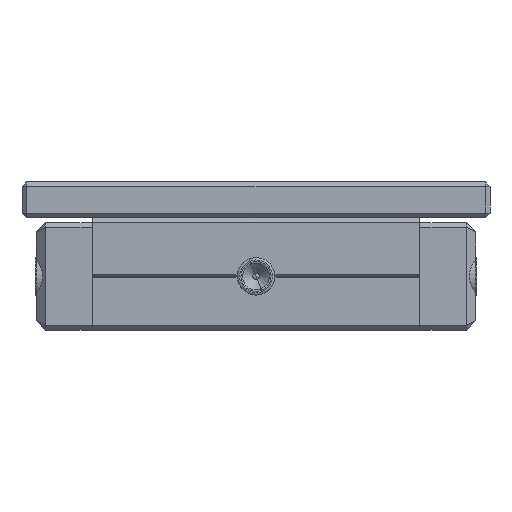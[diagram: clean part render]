
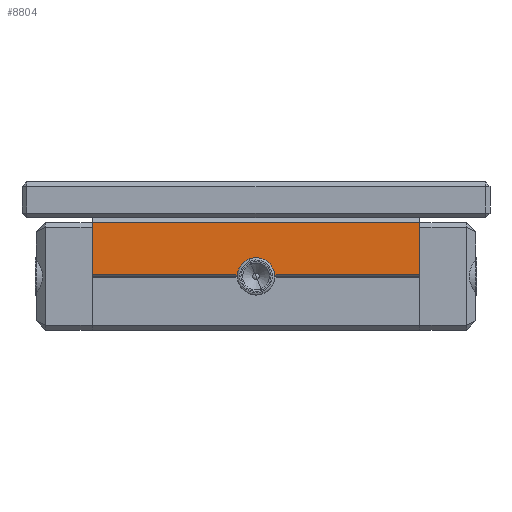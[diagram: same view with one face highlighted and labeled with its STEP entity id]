
A CAD part, front view. The second image highlights one B-rep face of the part: STEP entity #8804.
In plain terms, the highlighted planar face has unit normal (0, -1, 0) as drawn and (-1, 0, 0) by its records, which use the part's own axes.
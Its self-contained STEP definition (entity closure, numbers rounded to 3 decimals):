
#4380 = DIRECTION ( 'NONE',  ( 0., -1., 0. ) ) ;
#4381 = VECTOR ( 'NONE', #4380, 1000. ) ;
#4382 = CARTESIAN_POINT ( 'NONE',  ( -25., 0.3, 35. ) ) ;
#4383 = LINE ( 'NONE', #4382, #4381 ) ;
#4384 = CARTESIAN_POINT ( 'NONE',  ( -25., 11.5, 35. ) ) ;
#4530 = CARTESIAN_POINT ( 'NONE',  ( -25., 0.3, -35. ) ) ;
#4666 = CARTESIAN_POINT ( 'NONE',  ( -25., 11.5, -35. ) ) ;
#4667 = DIRECTION ( 'NONE',  ( 0., -1., 0. ) ) ;
#4668 = VECTOR ( 'NONE', #4667, 1000. ) ;
#4669 = CARTESIAN_POINT ( 'NONE',  ( -25., 0.3, -35. ) ) ;
#4670 = LINE ( 'NONE', #4669, #4668 ) ;
#4950 = DIRECTION ( 'NONE',  ( 0., 0., -1. ) ) ;
#4951 = DIRECTION ( 'NONE',  ( 1., 0., 0. ) ) ;
#4952 = CARTESIAN_POINT ( 'NONE',  ( -25., 0.3, 35. ) ) ;
#4953 = AXIS2_PLACEMENT_3D ( 'NONE', #4952, #4951, #4950 ) ;
#4954 = PLANE ( 'NONE',  #4953 ) ;
#4955 = FACE_OUTER_BOUND ( 'NONE', #8805, .T. ) ;
#4956 = DIRECTION ( 'NONE',  ( 0., 0., -1. ) ) ;
#4957 = VECTOR ( 'NONE', #4956, 1000. ) ;
#4958 = CARTESIAN_POINT ( 'NONE',  ( -25., 11.5, 35. ) ) ;
#4959 = LINE ( 'NONE', #4958, #4957 ) ;
#4996 = DIRECTION ( 'NONE',  ( 0., 0., 1. ) ) ;
#4997 = DIRECTION ( 'NONE',  ( -1., 0., 0. ) ) ;
#4998 = AXIS2_PLACEMENT_3D ( 'NONE', #5005, #4997, #4996 ) ;
#4999 = CIRCLE ( 'NONE', #4998, 3. ) ;
#5000 = CARTESIAN_POINT ( 'NONE',  ( -25., 0.3, -2.985 ) ) ;
#5001 = DIRECTION ( 'NONE',  ( 0., 0., -1. ) ) ;
#5002 = VECTOR ( 'NONE', #5001, 1000. ) ;
#5003 = CARTESIAN_POINT ( 'NONE',  ( -25., 0.3, 35. ) ) ;
#5004 = LINE ( 'NONE', #5003, #5002 ) ;
#5005 = CARTESIAN_POINT ( 'NONE',  ( -25., 0., 0. ) ) ;
#8441 = VERTEX_POINT ( 'NONE', #4384 ) ;
#8443 = EDGE_CURVE ( 'NONE', #8441, #10894, #4383, .T. ) ;
#8540 = VERTEX_POINT ( 'NONE', #4530 ) ;
#8608 = EDGE_CURVE ( 'NONE', #8609, #8540, #4670, .T. ) ;
#8609 = VERTEX_POINT ( 'NONE', #4666 ) ;
#8801 = EDGE_CURVE ( 'NONE', #8441, #8609, #4959, .T. ) ;
#8804 = ADVANCED_FACE ( 'NONE', ( #4955 ), #4954, .F. ) ;
#8805 = EDGE_LOOP ( 'NONE', ( #9502, #8862, #8864, #8865, #8866, #8868 ) ) ;
#8860 = EDGE_CURVE ( 'NONE', #8861, #8540, #5004, .T. ) ;
#8861 = VERTEX_POINT ( 'NONE', #5000 ) ;
#8862 = ORIENTED_EDGE ( 'NONE', *, *, #8863, .F. ) ;
#8863 = EDGE_CURVE ( 'NONE', #10895, #8861, #4999, .T. ) ;
#8864 = ORIENTED_EDGE ( 'NONE', *, *, #10893, .F. ) ;
#8865 = ORIENTED_EDGE ( 'NONE', *, *, #8443, .F. ) ;
#8866 = ORIENTED_EDGE ( 'NONE', *, *, #8801, .T. ) ;
#8868 = ORIENTED_EDGE ( 'NONE', *, *, #8608, .T. ) ;
#9502 = ORIENTED_EDGE ( 'NONE', *, *, #8860, .F. ) ;
#10893 = EDGE_CURVE ( 'NONE', #10894, #10895, #16342, .T. ) ;
#10894 = VERTEX_POINT ( 'NONE', #16338 ) ;
#10895 = VERTEX_POINT ( 'NONE', #16337 ) ;
#16337 = CARTESIAN_POINT ( 'NONE',  ( -25., 0.3, 2.985 ) ) ;
#16338 = CARTESIAN_POINT ( 'NONE',  ( -25., 0.3, 35. ) ) ;
#16339 = DIRECTION ( 'NONE',  ( 0., 0., -1. ) ) ;
#16340 = VECTOR ( 'NONE', #16339, 1000. ) ;
#16341 = CARTESIAN_POINT ( 'NONE',  ( -25., 0.3, 35. ) ) ;
#16342 = LINE ( 'NONE', #16341, #16340 ) ;
